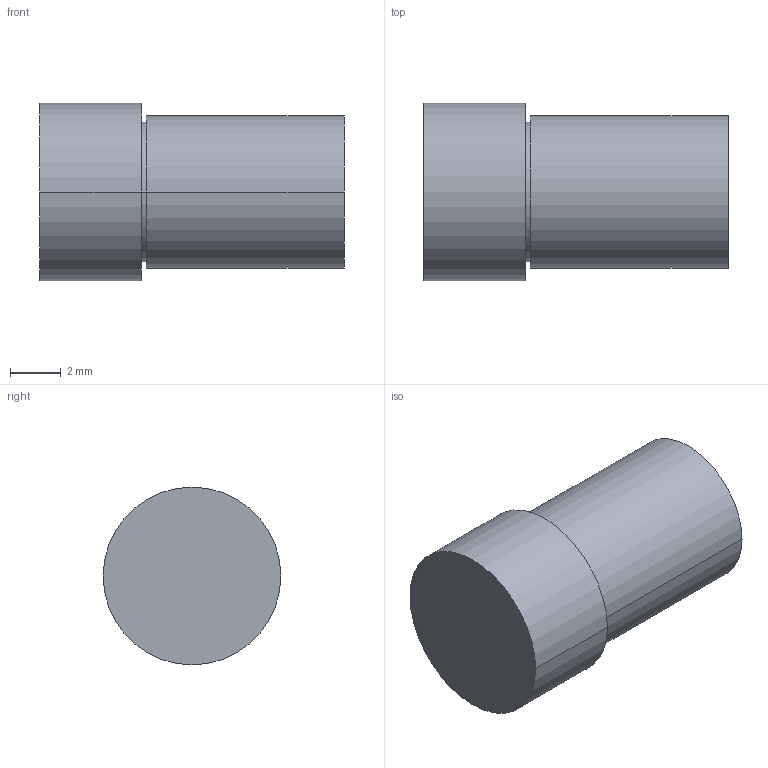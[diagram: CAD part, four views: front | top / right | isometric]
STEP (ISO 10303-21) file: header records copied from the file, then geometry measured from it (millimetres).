
FILE_DESCRIPTION((''),'2;1');
FILE_NAME('S600-02','2006-08-10T',('PAw'),(''),'PRO/ENGINEER BY PARAMETRIC TECHNOLOGY CORPORATION, 2004320','PRO/ENGINEER BY PARAMETRIC TECHNOLOGY CORPORATION, 2004320','');
FILE_SCHEMA(('CONFIG_CONTROL_DESIGN'));
Length unit declared in the file: millimetre
Products named in the file (1): S600-02
Bounding box: 12 x 7 x 7 mm (x, y, z)
Volume: 379.2 mm3; surface area: 324.4 mm2
Topology: 1 solids, 1 shells, 10 faces, 18 edges, 12 vertices
Faces by surface type: cylinder 6, plane 4
Entity records: 292 total; most frequent: DIRECTION 50, CARTESIAN_POINT 40, ORIENTED_EDGE 36, AXIS2_PLACEMENT_3D 22, EDGE_CURVE 18, VERTEX_POINT 12, EDGE_LOOP 12, CIRCLE 12
